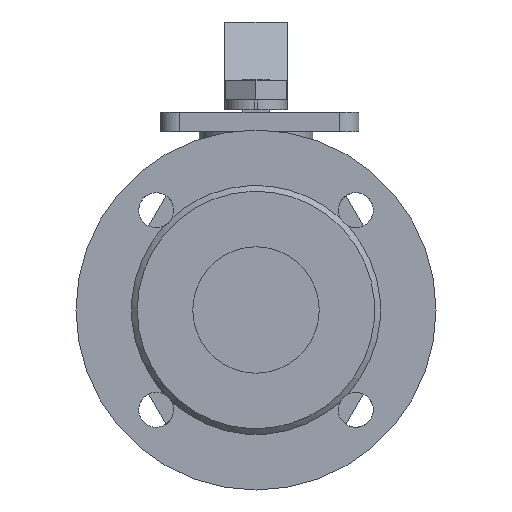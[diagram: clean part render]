
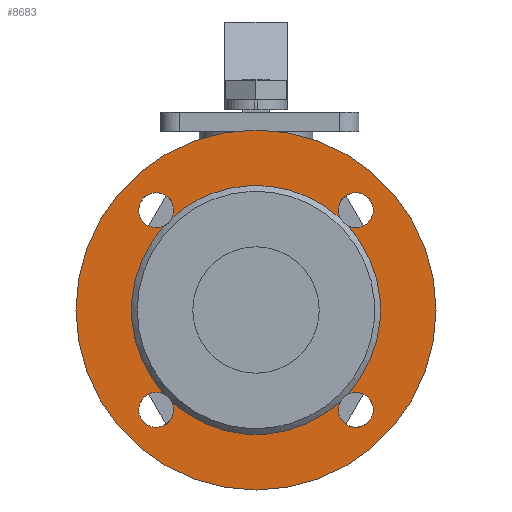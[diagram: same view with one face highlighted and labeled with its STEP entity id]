
A CAD part, front view. The second image highlights one B-rep face of the part: STEP entity #8683.
In plain terms, the highlighted planar face has unit normal (0, -1, 0).
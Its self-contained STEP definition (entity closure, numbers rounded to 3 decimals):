
#8683=ADVANCED_FACE('',(#15942,#15944),#15946,.T.);
#15942=FACE_BOUND('',#15943,.T.);
#15943=EDGE_LOOP('',(#21925,#21926));
#15944=FACE_BOUND('',#15945,.T.);
#15945=EDGE_LOOP('',(#21927,#21928,#21929,#21930,#21931,#21932,#21933,#21934,#21935,
#21936,#21937,#21938));
#15946=PLANE('',#15947);
#15947=AXIS2_PLACEMENT_3D('',#15948,#15949,#15950);
#15948=CARTESIAN_POINT('',(3552.944,-1337.176,0.));
#15949=DIRECTION('',(0.,-1.,0.));
#15950=DIRECTION('',(0.,0.,1.));
#21925=ORIENTED_EDGE('',*,*,#25011,.F.);
#21926=ORIENTED_EDGE('',*,*,#25012,.F.);
#21927=ORIENTED_EDGE('',*,*,#24993,.T.);
#21928=ORIENTED_EDGE('',*,*,#24995,.T.);
#21929=ORIENTED_EDGE('',*,*,#25013,.T.);
#21930=ORIENTED_EDGE('',*,*,#25010,.T.);
#21931=ORIENTED_EDGE('',*,*,#25009,.T.);
#21932=ORIENTED_EDGE('',*,*,#25014,.T.);
#21933=ORIENTED_EDGE('',*,*,#25000,.T.);
#21934=ORIENTED_EDGE('',*,*,#24999,.T.);
#21935=ORIENTED_EDGE('',*,*,#25015,.T.);
#21936=ORIENTED_EDGE('',*,*,#25003,.T.);
#21937=ORIENTED_EDGE('',*,*,#25016,.T.);
#21938=ORIENTED_EDGE('',*,*,#25017,.T.);
#24993=EDGE_CURVE('',#29587,#29588,#29589,.T.);
#24995=EDGE_CURVE('',#29588,#29590,#29592,.T.);
#24999=EDGE_CURVE('',#29600,#29597,#29601,.T.);
#25000=EDGE_CURVE('',#29598,#29600,#29602,.T.);
#25003=EDGE_CURVE('',#29607,#29608,#29609,.T.);
#25009=EDGE_CURVE('',#29620,#29617,#29621,.T.);
#25010=EDGE_CURVE('',#29618,#29620,#29622,.T.);
#25011=EDGE_CURVE('',#29623,#29624,#29625,.T.);
#25012=EDGE_CURVE('',#29624,#29623,#29626,.T.);
#25013=EDGE_CURVE('',#29590,#29618,#29627,.T.);
#25014=EDGE_CURVE('',#29617,#29598,#29628,.T.);
#25015=EDGE_CURVE('',#29597,#29607,#29629,.T.);
#25016=EDGE_CURVE('',#29608,#29630,#29631,.T.);
#25017=EDGE_CURVE('',#29630,#29587,#29632,.T.);
#29587=VERTEX_POINT('',#40876);
#29588=VERTEX_POINT('',#40877);
#29589=CIRCLE('',#40878,9.);
#29590=VERTEX_POINT('',#40882);
#29592=CIRCLE('',#40934,9.);
#29597=VERTEX_POINT('',#40948);
#29598=VERTEX_POINT('',#40949);
#29600=VERTEX_POINT('',#41001);
#29601=CIRCLE('',#41002,9.);
#29602=CIRCLE('',#41006,9.);
#29607=VERTEX_POINT('',#41020);
#29608=VERTEX_POINT('',#41021);
#29609=CIRCLE('',#41022,9.);
#29617=VERTEX_POINT('',#41100);
#29618=VERTEX_POINT('',#41101);
#29620=VERTEX_POINT('',#41153);
#29621=CIRCLE('',#41154,9.);
#29622=CIRCLE('',#41158,9.);
#29623=VERTEX_POINT('',#41162);
#29624=VERTEX_POINT('',#41163);
#29625=CIRCLE('',#41164,92.5);
#29626=CIRCLE('',#41168,92.5);
#29627=CIRCLE('',#41172,64.);
#29628=CIRCLE('',#41176,64.);
#29629=CIRCLE('',#41180,64.);
#29630=VERTEX_POINT('',#41184);
#29631=CIRCLE('',#41185,64.);
#29632=CIRCLE('',#41189,64.);
#40876=CARTESIAN_POINT('',(3688.692,-1337.176,47.177));
#40877=CARTESIAN_POINT('',(3698.812,-1337.176,42.514));
#40878=AXIS2_PLACEMENT_3D('',#40879,#40880,#40881);
#40879=CARTESIAN_POINT('',(3696.709,-1337.176,51.265));
#40880=DIRECTION('',(0.,1.,0.));
#40881=DIRECTION('',(-0.891,0.,-0.454));
#40882=CARTESIAN_POINT('',(3692.621,-1337.176,43.247));
#40934=AXIS2_PLACEMENT_3D('',#40935,#40936,#40937);
#40935=CARTESIAN_POINT('',(3696.709,-1337.176,51.265));
#40936=DIRECTION('',(0.,1.,0.));
#40937=DIRECTION('',(0.234,0.,-0.972));
#40948=CARTESIAN_POINT('',(3598.267,-1337.176,-43.247));
#40949=CARTESIAN_POINT('',(3602.197,-1337.176,-47.177));
#41001=CARTESIAN_POINT('',(3585.428,-1337.176,-53.368));
#41002=AXIS2_PLACEMENT_3D('',#41003,#41004,#41005);
#41003=CARTESIAN_POINT('',(3594.179,-1337.176,-51.265));
#41004=DIRECTION('',(0.,1.,0.));
#41005=DIRECTION('',(-0.972,0.,-0.234));
#41006=AXIS2_PLACEMENT_3D('',#41007,#41008,#41009);
#41007=CARTESIAN_POINT('',(3594.179,-1337.176,-51.265));
#41008=DIRECTION('',(0.,1.,0.));
#41009=DIRECTION('',(0.891,0.,0.454));
#41020=CARTESIAN_POINT('',(3598.267,-1337.176,43.247));
#41021=CARTESIAN_POINT('',(3602.197,-1337.176,47.177));
#41022=AXIS2_PLACEMENT_3D('',#41023,#41024,#41025);
#41023=CARTESIAN_POINT('',(3594.179,-1337.176,51.265));
#41024=DIRECTION('',(0.,1.,0.));
#41025=DIRECTION('',(0.454,0.,-0.891));
#41100=CARTESIAN_POINT('',(3688.692,-1337.176,-47.177));
#41101=CARTESIAN_POINT('',(3692.621,-1337.176,-43.247));
#41153=CARTESIAN_POINT('',(3692.008,-1337.176,-58.94));
#41154=AXIS2_PLACEMENT_3D('',#41155,#41156,#41157);
#41155=CARTESIAN_POINT('',(3696.709,-1337.176,-51.265));
#41156=DIRECTION('',(0.,1.,0.));
#41157=DIRECTION('',(-0.522,0.,-0.853));
#41158=AXIS2_PLACEMENT_3D('',#41159,#41160,#41161);
#41159=CARTESIAN_POINT('',(3696.709,-1337.176,-51.265));
#41160=DIRECTION('',(0.,1.,0.));
#41161=DIRECTION('',(-0.454,0.,0.891));
#41162=CARTESIAN_POINT('',(3737.944,-1337.176,0.));
#41163=CARTESIAN_POINT('',(3552.944,-1337.176,0.));
#41164=AXIS2_PLACEMENT_3D('',#41165,#41166,#41167);
#41165=CARTESIAN_POINT('',(3645.444,-1337.176,0.));
#41166=DIRECTION('',(0.,1.,0.));
#41167=DIRECTION('',(1.,0.,0.));
#41168=AXIS2_PLACEMENT_3D('',#41169,#41170,#41171);
#41169=CARTESIAN_POINT('',(3645.444,-1337.176,0.));
#41170=DIRECTION('',(0.,1.,0.));
#41171=DIRECTION('',(-1.,0.,0.));
#41172=AXIS2_PLACEMENT_3D('',#41173,#41174,#41175);
#41173=CARTESIAN_POINT('',(3645.444,-1337.176,0.));
#41174=DIRECTION('',(0.,1.,0.));
#41175=DIRECTION('',(0.737,0.,0.676));
#41176=AXIS2_PLACEMENT_3D('',#41177,#41178,#41179);
#41177=CARTESIAN_POINT('',(3645.444,-1337.176,0.));
#41178=DIRECTION('',(0.,1.,0.));
#41179=DIRECTION('',(0.676,0.,-0.737));
#41180=AXIS2_PLACEMENT_3D('',#41181,#41182,#41183);
#41181=CARTESIAN_POINT('',(3645.444,-1337.176,0.));
#41182=DIRECTION('',(0.,1.,0.));
#41183=DIRECTION('',(-0.737,0.,-0.676));
#41184=CARTESIAN_POINT('',(3622.242,-1337.176,59.646));
#41185=AXIS2_PLACEMENT_3D('',#41186,#41187,#41188);
#41186=CARTESIAN_POINT('',(3645.444,-1337.176,0.));
#41187=DIRECTION('',(0.,1.,0.));
#41188=DIRECTION('',(-0.676,0.,0.737));
#41189=AXIS2_PLACEMENT_3D('',#41190,#41191,#41192);
#41190=CARTESIAN_POINT('',(3645.444,-1337.176,0.));
#41191=DIRECTION('',(0.,1.,0.));
#41192=DIRECTION('',(-0.363,0.,0.932));
